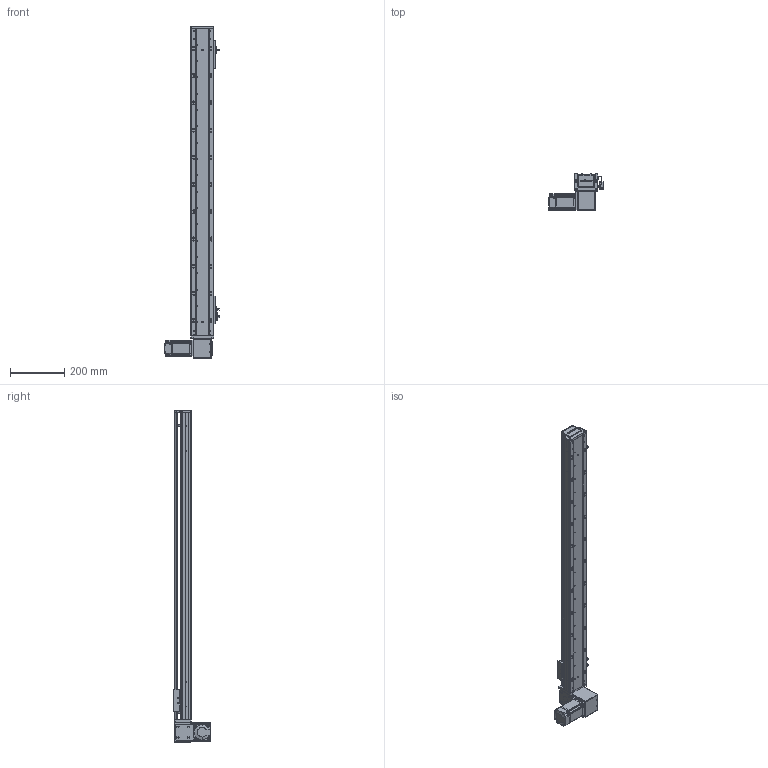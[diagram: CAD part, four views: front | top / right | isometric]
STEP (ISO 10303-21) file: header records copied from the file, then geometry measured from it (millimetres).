
FILE_DESCRIPTION (( 'STEP AP203' ), '1' );
FILE_NAME ('RY80-T-300-DL.SLDASM_950.step', '2021-03-01T01:38:30', ( '盈信电脑' ), ( '东莞市道滘镇水果街19号' ), 'SwSTEP 2.0', 'SolidWorks 2012', '' );
FILE_SCHEMA (( 'CONFIG_CONTROL_DESIGN' ));
Products named in the file (19): 1; RY80-T-M4蹟翐3; RY80-T肮祭謫狟殏俋欶; RY80-T-上下折同步轮盖板; RY80-T萇儂假蚾啣; RY80-T翋肮祭謫裔啣; 滅袉蝶18-10; RY80-T肮祭湍揤輸2; RY80-T-翋肮祭謫釱; RY80俋离覜茼え; RY80-T肮祭湍揤輸1; 覜茼ん672; RY80-T綴裔啣; 672嫖萇羲壽假蚾釱; RY80-T-300-DL倰第菁釱_950; RY80-T肮祭謫臏賑輸; RY80-T-300-DL倰第奻裔啣_950; RY100-T粣創揤踡裔; RY80-T-300-DL.SLDASM_950
Assembly tree (24 placements, depth 2):
  RY80-T-300-DL.SLDASM_950
    RY80-T-300-DL倰第菁釱_950
    RY80-T肮祭謫臏賑輸
    RY80-T-300-DL倰第奻裔啣_950
    RY80-T綴裔啣
    672嫖萇羲壽假蚾釱  x2
    覜茼ん672  x3
    RY80俋离覜茼え
    RY80-T-翋肮祭謫釱
    RY80-T肮祭湍揤輸1
    RY80-T肮祭湍揤輸2
    RY80-T萇儂假蚾啣
    RY80-T翋肮祭謫裔啣  x2
    滅袉蝶18-10  x2
    1
    RY80-T肮祭謫狟殏俋欶
    RY80-T-M4蹟翐3  x2
    RY80-T-上下折同步轮盖板
    RY100-T粣創揤踡裔
Bounding box: 198.7 x 134.5 x 1220 mm (x, y, z)
Volume: 2115944 mm3; surface area: 896201.6 mm2
Topology: 24 solids, 24 shells, 2638 faces, 7312 edges, 4749 vertices
Faces by surface type: plane 1373, cylinder 1056, cone 153, bspline 56
Entity records: 84623 total; most frequent: CARTESIAN_POINT 21574, ORIENTED_EDGE 13068, DIRECTION 12096, EDGE_CURVE 6534, VERTEX_POINT 4290, AXIS2_PLACEMENT_3D 4104, LINE 3888, VECTOR 3888
